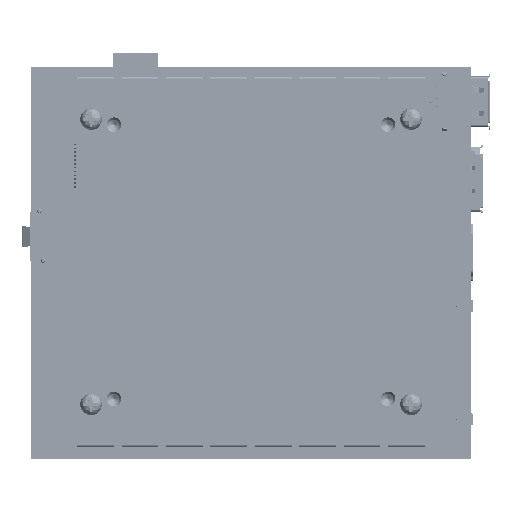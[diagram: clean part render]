
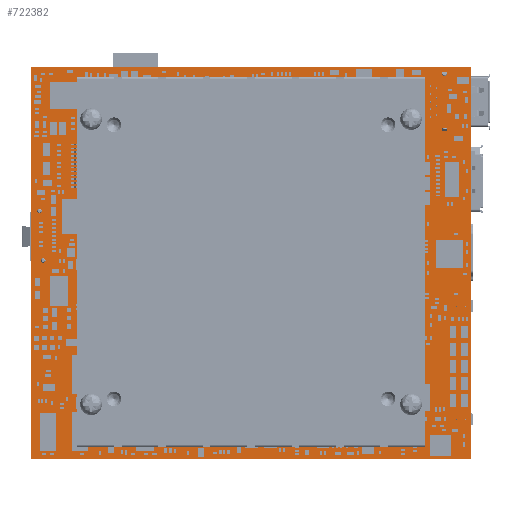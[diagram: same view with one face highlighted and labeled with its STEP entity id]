
A CAD part, front view. The second image highlights one B-rep face of the part: STEP entity #722382.
In plain terms, the highlighted planar face has unit normal (0, -1, 0) as drawn and (0, 0, -1) by its records, which use the part's own axes.
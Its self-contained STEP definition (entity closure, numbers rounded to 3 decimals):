
#721939=DIRECTION('',(1.,0.,0.));
#721940=VECTOR('',#721939,114.3);
#721941=CARTESIAN_POINT('',(0.,101.6,0.));
#721942=LINE('',#721941,#721940);
#721947=DIRECTION('',(-0.707,0.707,0.));
#721948=VECTOR('',#721947,25.);
#721949=CARTESIAN_POINT('',(63.809,34.574,0.));
#721950=LINE('',#721949,#721948);
#721951=DIRECTION('',(0.707,0.707,0.));
#721952=VECTOR('',#721951,27.);
#721953=CARTESIAN_POINT('',(46.131,52.252,0.));
#721954=LINE('',#721953,#721952);
#721955=DIRECTION('',(0.707,-0.707,0.));
#721956=VECTOR('',#721955,25.);
#721957=CARTESIAN_POINT('',(65.223,71.344,0.));
#721958=LINE('',#721957,#721956);
#721959=DIRECTION('',(-0.707,-0.707,0.));
#721960=VECTOR('',#721959,27.);
#721961=CARTESIAN_POINT('',(82.901,53.666,0.));
#721962=LINE('',#721961,#721960);
#721963=CARTESIAN_POINT('',(78.175,79.756,0.));
#721964=DIRECTION('',(0.,0.,1.));
#721965=DIRECTION('',(1.,0.,0.));
#721966=AXIS2_PLACEMENT_3D('',#721963,#721964,#721965);
#721968=CARTESIAN_POINT('',(78.175,79.756,0.));
#721969=DIRECTION('',(0.,0.,1.));
#721970=DIRECTION('',(-1.,0.,0.));
#721971=AXIS2_PLACEMENT_3D('',#721968,#721969,#721970);
#721973=CARTESIAN_POINT('',(53.975,79.756,0.));
#721974=DIRECTION('',(0.,0.,1.));
#721975=DIRECTION('',(1.,0.,0.));
#721976=AXIS2_PLACEMENT_3D('',#721973,#721974,#721975);
#721978=CARTESIAN_POINT('',(53.975,79.756,0.));
#721979=DIRECTION('',(0.,0.,1.));
#721980=DIRECTION('',(-1.,0.,0.));
#721981=AXIS2_PLACEMENT_3D('',#721978,#721979,#721980);
#721983=CARTESIAN_POINT('',(30.089,43.941,0.));
#721984=DIRECTION('',(0.,0.,1.));
#721985=DIRECTION('',(1.,0.,0.));
#721986=AXIS2_PLACEMENT_3D('',#721983,#721984,#721985);
#721988=CARTESIAN_POINT('',(30.089,43.941,0.));
#721989=DIRECTION('',(0.,0.,1.));
#721990=DIRECTION('',(-1.,0.,0.));
#721991=AXIS2_PLACEMENT_3D('',#721988,#721989,#721990);
#721993=CARTESIAN_POINT('',(17.145,7.62,0.));
#721994=DIRECTION('',(0.,0.,1.));
#721995=DIRECTION('',(1.,0.,0.));
#721996=AXIS2_PLACEMENT_3D('',#721993,#721994,#721995);
#721998=CARTESIAN_POINT('',(17.145,7.62,0.));
#721999=DIRECTION('',(0.,0.,1.));
#722000=DIRECTION('',(-1.,0.,0.));
#722001=AXIS2_PLACEMENT_3D('',#721998,#721999,#722000);
#722003=CARTESIAN_POINT('',(97.155,7.62,0.));
#722004=DIRECTION('',(0.,0.,1.));
#722005=DIRECTION('',(1.,0.,0.));
#722006=AXIS2_PLACEMENT_3D('',#722003,#722004,#722005);
#722008=CARTESIAN_POINT('',(97.155,7.62,0.));
#722009=DIRECTION('',(0.,0.,1.));
#722010=DIRECTION('',(-1.,0.,0.));
#722011=AXIS2_PLACEMENT_3D('',#722008,#722009,#722010);
#722013=CARTESIAN_POINT('',(20.955,93.345,0.));
#722014=DIRECTION('',(0.,0.,1.));
#722015=DIRECTION('',(1.,0.,0.));
#722016=AXIS2_PLACEMENT_3D('',#722013,#722014,#722015);
#722018=CARTESIAN_POINT('',(20.955,93.345,0.));
#722019=DIRECTION('',(0.,0.,1.));
#722020=DIRECTION('',(-1.,0.,0.));
#722021=AXIS2_PLACEMENT_3D('',#722018,#722019,#722020);
#722023=CARTESIAN_POINT('',(94.615,93.345,0.));
#722024=DIRECTION('',(0.,0.,1.));
#722025=DIRECTION('',(1.,0.,0.));
#722026=AXIS2_PLACEMENT_3D('',#722023,#722024,#722025);
#722028=CARTESIAN_POINT('',(94.615,93.345,0.));
#722029=DIRECTION('',(0.,0.,1.));
#722030=DIRECTION('',(-1.,0.,0.));
#722031=AXIS2_PLACEMENT_3D('',#722028,#722029,#722030);
#722033=DIRECTION('',(0.,1.,0.));
#722034=VECTOR('',#722033,101.6);
#722035=CARTESIAN_POINT('',(0.,0.,0.));
#722036=LINE('',#722035,#722034);
#722041=DIRECTION('',(-1.,0.,0.));
#722042=VECTOR('',#722041,114.3);
#722043=CARTESIAN_POINT('',(114.3,0.,0.));
#722044=LINE('',#722043,#722042);
#722049=DIRECTION('',(0.,-1.,0.));
#722050=VECTOR('',#722049,101.6);
#722051=CARTESIAN_POINT('',(114.3,101.6,0.));
#722052=LINE('',#722051,#722050);
#722153=CARTESIAN_POINT('',(0.,101.6,0.));
#722154=CARTESIAN_POINT('',(114.3,101.6,0.));
#722155=VERTEX_POINT('',#722153);
#722156=VERTEX_POINT('',#722154);
#722157=CARTESIAN_POINT('',(63.809,34.574,0.));
#722158=CARTESIAN_POINT('',(46.131,52.252,0.));
#722159=VERTEX_POINT('',#722157);
#722160=VERTEX_POINT('',#722158);
#722161=CARTESIAN_POINT('',(0.,0.,0.));
#722162=VERTEX_POINT('',#722161);
#722163=CARTESIAN_POINT('',(114.3,0.,0.));
#722164=VERTEX_POINT('',#722163);
#722165=CARTESIAN_POINT('',(82.901,53.666,0.));
#722166=VERTEX_POINT('',#722165);
#722167=CARTESIAN_POINT('',(65.223,71.344,0.));
#722168=VERTEX_POINT('',#722167);
#722205=CARTESIAN_POINT('',(79.675,79.756,0.));
#722206=CARTESIAN_POINT('',(76.675,79.756,0.));
#722207=VERTEX_POINT('',#722205);
#722208=VERTEX_POINT('',#722206);
#722209=CARTESIAN_POINT('',(55.475,79.756,0.));
#722210=CARTESIAN_POINT('',(52.475,79.756,0.));
#722211=VERTEX_POINT('',#722209);
#722212=VERTEX_POINT('',#722210);
#722213=CARTESIAN_POINT('',(31.589,43.941,0.));
#722214=CARTESIAN_POINT('',(28.589,43.941,0.));
#722215=VERTEX_POINT('',#722213);
#722216=VERTEX_POINT('',#722214);
#722217=CARTESIAN_POINT('',(18.645,7.62,0.));
#722218=CARTESIAN_POINT('',(15.645,7.62,0.));
#722219=VERTEX_POINT('',#722217);
#722220=VERTEX_POINT('',#722218);
#722221=CARTESIAN_POINT('',(98.655,7.62,0.));
#722222=CARTESIAN_POINT('',(95.655,7.62,0.));
#722223=VERTEX_POINT('',#722221);
#722224=VERTEX_POINT('',#722222);
#722225=CARTESIAN_POINT('',(22.455,93.345,0.));
#722226=CARTESIAN_POINT('',(19.455,93.345,0.));
#722227=VERTEX_POINT('',#722225);
#722228=VERTEX_POINT('',#722226);
#722229=CARTESIAN_POINT('',(96.115,93.345,0.));
#722230=CARTESIAN_POINT('',(93.115,93.345,0.));
#722231=VERTEX_POINT('',#722229);
#722232=VERTEX_POINT('',#722230);
#722316=CARTESIAN_POINT('',(0.,0.,0.));
#722317=DIRECTION('',(0.,0.,-1.));
#722318=DIRECTION('',(-1.,0.,0.));
#722319=AXIS2_PLACEMENT_3D('',#722316,#722317,#722318);
#722320=PLANE('',#722319);
#722321=ORIENTED_EDGE('',*,*,#722306,.F.);
#722323=ORIENTED_EDGE('',*,*,#722322,.F.);
#722325=ORIENTED_EDGE('',*,*,#722324,.F.);
#722327=ORIENTED_EDGE('',*,*,#722326,.F.);
#722328=EDGE_LOOP('',(#722321,#722323,#722325,#722327));
#722329=FACE_OUTER_BOUND('',#722328,.F.);
#722331=ORIENTED_EDGE('',*,*,#722330,.T.);
#722333=ORIENTED_EDGE('',*,*,#722332,.T.);
#722335=ORIENTED_EDGE('',*,*,#722334,.T.);
#722337=ORIENTED_EDGE('',*,*,#722336,.T.);
#722338=EDGE_LOOP('',(#722331,#722333,#722335,#722337));
#722339=FACE_BOUND('',#722338,.F.);
#722341=ORIENTED_EDGE('',*,*,#722340,.F.);
#722343=ORIENTED_EDGE('',*,*,#722342,.F.);
#722344=EDGE_LOOP('',(#722341,#722343));
#722345=FACE_BOUND('',#722344,.F.);
#722347=ORIENTED_EDGE('',*,*,#722346,.F.);
#722349=ORIENTED_EDGE('',*,*,#722348,.F.);
#722350=EDGE_LOOP('',(#722347,#722349));
#722351=FACE_BOUND('',#722350,.F.);
#722353=ORIENTED_EDGE('',*,*,#722352,.F.);
#722355=ORIENTED_EDGE('',*,*,#722354,.F.);
#722356=EDGE_LOOP('',(#722353,#722355));
#722357=FACE_BOUND('',#722356,.F.);
#722359=ORIENTED_EDGE('',*,*,#722358,.F.);
#722361=ORIENTED_EDGE('',*,*,#722360,.F.);
#722362=EDGE_LOOP('',(#722359,#722361));
#722363=FACE_BOUND('',#722362,.F.);
#722365=ORIENTED_EDGE('',*,*,#722364,.F.);
#722367=ORIENTED_EDGE('',*,*,#722366,.F.);
#722368=EDGE_LOOP('',(#722365,#722367));
#722369=FACE_BOUND('',#722368,.F.);
#722371=ORIENTED_EDGE('',*,*,#722370,.F.);
#722373=ORIENTED_EDGE('',*,*,#722372,.F.);
#722374=EDGE_LOOP('',(#722371,#722373));
#722375=FACE_BOUND('',#722374,.F.);
#722377=ORIENTED_EDGE('',*,*,#722376,.F.);
#722379=ORIENTED_EDGE('',*,*,#722378,.F.);
#722380=EDGE_LOOP('',(#722377,#722379));
#722381=FACE_BOUND('',#722380,.F.);
#722382=ADVANCED_FACE('',(#722329,#722339,#722345,#722351,#722357,#722363,
#722369,#722375,#722381),#722320,.T.);
#721967=CIRCLE('',#721966,1.5);
#721972=CIRCLE('',#721971,1.5);
#721977=CIRCLE('',#721976,1.5);
#721982=CIRCLE('',#721981,1.5);
#721987=CIRCLE('',#721986,1.5);
#721992=CIRCLE('',#721991,1.5);
#721997=CIRCLE('',#721996,1.5);
#722002=CIRCLE('',#722001,1.5);
#722007=CIRCLE('',#722006,1.5);
#722012=CIRCLE('',#722011,1.5);
#722017=CIRCLE('',#722016,1.5);
#722022=CIRCLE('',#722021,1.5);
#722027=CIRCLE('',#722026,1.5);
#722032=CIRCLE('',#722031,1.5);
#722306=EDGE_CURVE('',#722155,#722156,#721942,.T.);
#722322=EDGE_CURVE('',#722162,#722155,#722036,.T.);
#722324=EDGE_CURVE('',#722164,#722162,#722044,.T.);
#722326=EDGE_CURVE('',#722156,#722164,#722052,.T.);
#722330=EDGE_CURVE('',#722159,#722160,#721950,.T.);
#722332=EDGE_CURVE('',#722160,#722168,#721954,.T.);
#722334=EDGE_CURVE('',#722168,#722166,#721958,.T.);
#722336=EDGE_CURVE('',#722166,#722159,#721962,.T.);
#722340=EDGE_CURVE('',#722207,#722208,#721967,.T.);
#722342=EDGE_CURVE('',#722208,#722207,#721972,.T.);
#722346=EDGE_CURVE('',#722211,#722212,#721977,.T.);
#722348=EDGE_CURVE('',#722212,#722211,#721982,.T.);
#722352=EDGE_CURVE('',#722215,#722216,#721987,.T.);
#722354=EDGE_CURVE('',#722216,#722215,#721992,.T.);
#722358=EDGE_CURVE('',#722219,#722220,#721997,.T.);
#722360=EDGE_CURVE('',#722220,#722219,#722002,.T.);
#722364=EDGE_CURVE('',#722223,#722224,#722007,.T.);
#722366=EDGE_CURVE('',#722224,#722223,#722012,.T.);
#722370=EDGE_CURVE('',#722227,#722228,#722017,.T.);
#722372=EDGE_CURVE('',#722228,#722227,#722022,.T.);
#722376=EDGE_CURVE('',#722231,#722232,#722027,.T.);
#722378=EDGE_CURVE('',#722232,#722231,#722032,.T.);
